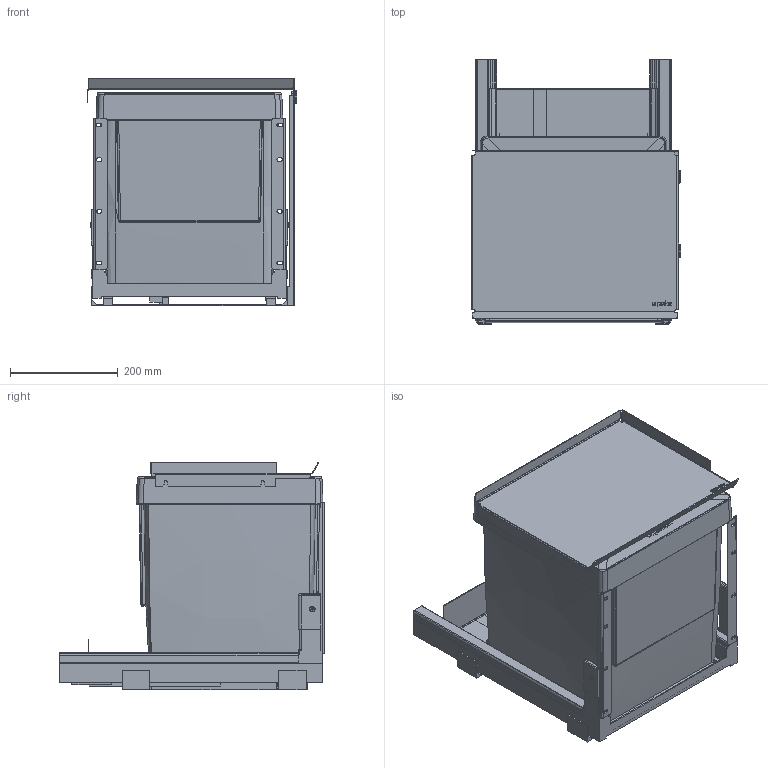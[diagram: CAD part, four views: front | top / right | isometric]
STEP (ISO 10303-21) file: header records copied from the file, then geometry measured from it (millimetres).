
FILE_DESCRIPTION(('STEP AP242'),'1');
FILE_NAME('OPO_53.433.03_volu_schn_3d.stp','2025-11-08T20:29:57',(' '),(' '),'Spatial InterOp 3D',' ',' ');
FILE_SCHEMA(('AP242_MANAGED_MODEL_BASED_3D_ENGINEERING_MIM_LF {1 0 10303 442 1 1 4}'));
Length unit declared in the file: millimetre
Products named in the file (1): 1
Bounding box: 388.45 x 491.5 x 422.75 mm (x, y, z)
Volume: 40347935.9 mm3; surface area: 1686714 mm2
Topology: 1 solids, 1 shells, 1173 faces, 6725 edges, 9036 vertices
Faces by surface type: plane 568, cylinder 473, bspline 66, cone 32, sphere 18, torus 16
Entity records: 99050 total; most frequent: CARTESIAN_POINT 21644, DIRECTION 9813, ORIENTED_EDGE 6488, STYLED_ITEM 4649, PRESENTATION_STYLE_ASSIGNMENT 4649, COLOUR_RGB 4649, LINE 4267, VECTOR 4267
